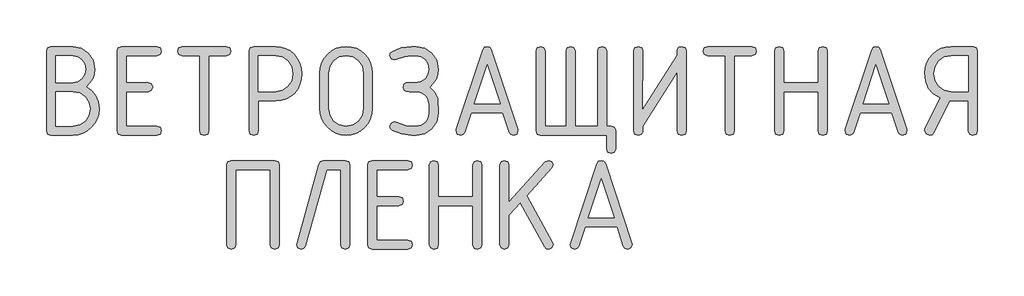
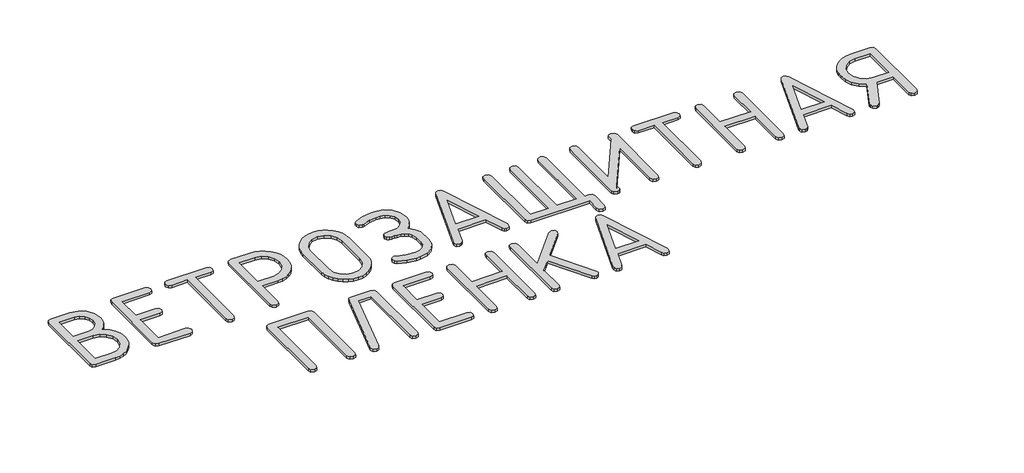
# One storey, part 7 of 42: 1 proxy.
"""IFC4 building model written with IfcOpenShell, lengths in millimetres."""

from ifc_helpers import new_model, si_unit, origin, origin_with_axes, place, context, project, spatial, polyline, outline, extrude, element, save

model = new_model("IFC4")

# Units and contexts
model_context = context("Model", 3, world=origin())
ifc_project = project(units=[si_unit("LENGTHUNIT", "METRE", prefix="MILLI")], contexts=[model_context])

# Site, building, storey
site = spatial("IfcSite", under=ifc_project)
building = spatial("IfcBuilding", under=site)
storey = spatial("IfcBuildingStorey", under=building, Name="Этаж 01", Elevation=0.0)

# Proxy
placement = place(None, origin())
element("IfcBuildingElementProxy", 1, Name="300 мм GOST Common", ObjectType="300 мм GOST Common", at=placement, inside=storey, context=model_context, shape_type="SweptSolid", body=[
    extrude(outline(polyline([(-22437.6353653, -44301.2508725), (-22418.3223114, -44315.6108267), (-22404.5272729, -44333.1887825), (-22396.2502498, -44353.98474), (-22393.4912421, -44377.9986992), (-22395.1456379, -44395.9625125), (-22400.1088255, -44412.5695196), (-22408.3808047, -44427.8197203), (-22419.9615756, -44441.7131146), (-22433.8827113, -44453.2762319), (-22449.1757851, -44461.5356014), (-22465.8407968, -44466.4912231), (-22483.8777466, -44468.143097), (-22559.172933, -44468.143097), (-22570.4914216, -44464.3299163), (-22574.2642512, -44452.8903743), (-22574.2642512, -44178.6641758), (-22570.5115972, -44167.2246338), (-22559.2536352, -44163.4114531), (-22484.1198533, -44163.4114531), (-22454.9560827, -44169.0202585), (-22430.7353241, -44185.8466748), (-22414.4233846, -44210.8240169), (-22408.9860714, -44240.8855999), (-22410.7766523, -44258.5795651), (-22416.1483949, -44274.5384324), (-22425.1012992, -44288.7622015), (-22437.6353653, -44301.2508725)]), holes=[polyline([(-22543.2745925, -44194.4011118), (-22543.2745925, -44287.3700879), (-22484.2812578, -44287.3700879), (-22467.2429982, -44283.9705062), (-22452.9284391, -44273.7717611), (-22443.2139074, -44258.7510574), (-22439.9757301, -44240.8855999), (-22443.2139074, -44223.0201423), (-22452.9284391, -44207.9994386), (-22467.2429982, -44197.8006935), (-22484.2812578, -44194.4011118), (-22543.2745925, -44194.4011118)]), polyline([(-22543.2745925, -44318.3597466), (-22543.2745925, -44437.1534383), (-22483.8777466, -44437.1534383), (-22460.8675215, -44432.8459564), (-22441.7108282, -44419.9235109), (-22428.7883827, -44400.7668175), (-22424.4809008, -44377.7565924), (-22428.7883827, -44354.7463674), (-22441.7108282, -44335.589674), (-22460.8675215, -44322.6672285), (-22483.8777466, -44318.3597466), (-22543.2745925, -44318.3597466)])]), origin_with_axes(), (0.0, 0.0, 1.0), 10.0),
    extrude(outline(polyline([(-22331.5119247, -44452.8903743), (-22331.5119247, -44178.6641758), (-22327.6382174, -44167.2246338), (-22316.0170953, -44163.4114531), (-22194.4795276, -44163.4114531), (-22183.1005123, -44167.2851604), (-22179.3075072, -44178.9062825), (-22183.1005123, -44190.5274045), (-22194.4795276, -44194.4011118), (-22300.522266, -44194.4011118), (-22300.522266, -44287.3700879), (-22224.7428662, -44287.3700879), (-22213.4243776, -44291.2437952), (-22209.651548, -44302.8649173), (-22213.4243776, -44314.4860393), (-22224.7428662, -44318.3597466), (-22300.522266, -44318.3597466), (-22300.522266, -44437.1534383), (-22194.4795276, -44437.1534383), (-22183.1005123, -44441.0271456), (-22179.3075072, -44452.6482676), (-22183.1005123, -44464.2693896), (-22194.4795276, -44468.143097), (-22316.0170953, -44468.143097), (-22327.6382174, -44464.3299163), (-22331.5119247, -44452.8903743)])), origin_with_axes(), (0.0, 0.0, 1.0), 10.0),
    extrude(outline(polyline([(-22123.2194531, -44178.9062825), (-22119.426448, -44167.2851604), (-22108.0474327, -44163.4114531), (-21955.8430152, -44163.4114531), (-21944.5245266, -44167.2851604), (-21940.751697, -44178.9062825), (-21944.5245266, -44190.5274045), (-21955.8430152, -44194.4011118), (-22016.4503946, -44194.4011118), (-22016.4503946, -44452.9710766), (-22020.3241019, -44464.3500919), (-22031.9452239, -44468.143097), (-22043.566346, -44464.3500919), (-22047.4400533, -44452.9710766), (-22047.4400533, -44194.4011118), (-22108.0474327, -44194.4011118), (-22119.426448, -44190.5274045), (-22123.2194531, -44178.9062825)])), origin_with_axes(), (0.0, 0.0, 1.0), 10.0),
    extrude(outline(polyline([(-21861.9056123, -44163.4114531), (-21786.6104259, -44163.4114531), (-21768.4751203, -44165.1062001), (-21751.7571476, -44170.190441), (-21736.4565081, -44178.6641758), (-21722.5732015, -44190.5274045), (-21711.0453914, -44204.8117003), (-21702.8112414, -44220.5486363), (-21697.8707514, -44237.7382126), (-21696.2239214, -44256.3804292), (-21697.7850052, -44276.0717748), (-21702.4682569, -44293.8262668), (-21710.2736763, -44309.6439051), (-21721.2012635, -44323.5246897), (-21734.6255761, -44334.8230028), (-21749.9211718, -44342.8932264), (-21767.0880506, -44347.7353606), (-21786.1262125, -44349.3494053), (-21846.0072717, -44349.3494053), (-21846.0072717, -44453.2938855), (-21849.8809791, -44464.4307941), (-21861.5021011, -44468.143097), (-21873.1232231, -44464.3299163), (-21876.9969304, -44452.8903743), (-21876.9969304, -44178.6641758), (-21873.2241009, -44167.2246338), (-21861.9056123, -44163.4114531)]), holes=[polyline([(-21846.0072717, -44194.4011118), (-21846.0072717, -44318.3597466), (-21786.6104259, -44318.3597466), (-21763.6002008, -44313.8706847), (-21744.4435075, -44300.4034991), (-21731.5210619, -44280.4196078), (-21727.2135801, -44256.3804292), (-21731.5210619, -44232.3412506), (-21744.4435075, -44212.3573594), (-21763.6002008, -44198.8901737), (-21786.6104259, -44194.4011118), (-21846.0072717, -44194.4011118)])]), origin_with_axes(), (0.0, 0.0, 1.0), 10.0),
    extrude(outline(polyline([(-21453.4715949, -44376.7074634), (-21455.1259907, -44394.9411249), (-21460.0891783, -44411.7927606), (-21468.3611575, -44427.2623705), (-21479.9419284, -44441.3499546), (-21493.8630641, -44453.0719544), (-21509.1561379, -44461.4448114), (-21525.8211496, -44466.4685256), (-21543.8580994, -44468.143097), (-21561.8950492, -44466.4685256), (-21578.560061, -44461.4448114), (-21593.8531348, -44453.0719544), (-21607.7742705, -44441.3499546), (-21619.3550414, -44427.2623705), (-21627.6270206, -44411.7927606), (-21632.5902081, -44394.9411249), (-21634.244604, -44376.7074634), (-21634.244604, -44254.8470867), (-21632.5902081, -44236.6134252), (-21627.6270206, -44219.7617895), (-21619.3550414, -44204.2921796), (-21607.7742705, -44190.2045955), (-21593.8531348, -44178.4825957), (-21578.560061, -44170.1097387), (-21561.8950492, -44165.0860245), (-21543.8580994, -44163.4114531), (-21525.7227938, -44165.0784587), (-21509.0048212, -44170.0794754), (-21493.7041816, -44178.4145032), (-21479.820875, -44190.0835422), (-21468.293065, -44204.1332971), (-21460.0589149, -44219.6104728), (-21455.1184249, -44236.5150694), (-21453.4715949, -44254.8470867), (-21453.4715949, -44376.7074634)]), holes=[polyline([(-21484.4612536, -44376.4653567), (-21484.4612536, -44255.0891934), (-21488.7687354, -44231.5644916), (-21501.691181, -44211.9941993), (-21520.8478743, -44198.7993837), (-21543.8580994, -44194.4011118), (-21566.8683245, -44198.7993837), (-21586.0250178, -44211.9941993), (-21598.9474634, -44231.5644916), (-21603.2549453, -44255.0891934), (-21603.2549453, -44376.4653567), (-21598.9474634, -44399.9900585), (-21586.0250178, -44419.5603508), (-21566.8683245, -44432.7551664), (-21543.8580994, -44437.1534383), (-21520.8478743, -44432.7551664), (-21501.691181, -44419.5603508), (-21488.7687354, -44399.9900585), (-21484.4612536, -44376.4653567)])]), origin_with_axes(), (0.0, 0.0, 1.0), 10.0),
    extrude(outline(polyline([(-21317.8111358, -44194.4011118), (-21344.4226982, -44197.7300791), (-21371.4781229, -44207.7169808), (-21378.4185152, -44209.5731322), (-21388.9905082, -44204.9731048), (-21393.5905356, -44194.4011118), (-21391.3913997, -44186.5729949), (-21384.7939919, -44180.5203272), (-21353.3604709, -44167.6886716), (-21317.8111358, -44163.4114531), (-21302.6391154, -44163.4114531), (-21273.4148182, -44169.0606096), (-21248.6896705, -44186.0080792), (-21231.832991, -44210.9854213), (-21226.2140978, -44240.7241954), (-21228.1106003, -44259.0284713), (-21233.800108, -44275.4463325), (-21243.2826207, -44289.9777789), (-21256.5581386, -44302.6228105), (-21238.7834711, -44320.901867), (-21229.038676, -44342.9739286), (-21226.2140978, -44392.9286128), (-21231.832991, -44421.8502767), (-21248.6896705, -44446.1517376), (-21273.4148182, -44462.6452571), (-21302.6391154, -44468.143097), (-21317.8111358, -44468.143097), (-21352.9166086, -44463.8658785), (-21384.7939919, -44451.0342229), (-21391.3913997, -44445.1026086), (-21393.5905356, -44437.1534383), (-21389.1115615, -44426.460392), (-21378.4185152, -44421.9814179), (-21371.4781229, -44423.8375693), (-21337.9866949, -44435.2972869), (-21302.6391154, -44437.1534383), (-21285.0561157, -44433.9253488), (-21270.3985721, -44424.2410805), (-21260.5024604, -44409.896258), (-21257.2037565, -44392.6865061), (-21257.2037565, -44363.0687855), (-21263.1757219, -44340.7949683), (-21270.9937511, -44330.9795588), (-21281.1319695, -44323.968552), (-21293.5903772, -44319.761948), (-21308.3689742, -44318.3597466), (-21317.5690291, -44318.3597466), (-21326.2848706, -44318.3597466), (-21337.0283558, -44317.2400031), (-21343.5955003, -44313.8807725), (-21348.0744744, -44302.9456195), (-21343.5147981, -44291.9701154), (-21337.1090581, -44288.5200948), (-21327.0111908, -44287.3700879), (-21318.0128914, -44287.3700879), (-21307.965463, -44287.3700879), (-21286.690336, -44283.9402429), (-21270.6406788, -44273.6507078), (-21260.562987, -44258.5795651), (-21257.2037565, -44240.8048976), (-21260.5327237, -44222.9999668), (-21270.5196254, -44207.9994386), (-21285.2074324, -44197.8006935), (-21302.6391154, -44194.4011118), (-21317.8111358, -44194.4011118)])), origin_with_axes(), (0.0, 0.0, 1.0), 10.0),
    extrude(outline(polyline([(-20952.7949215, -44452.8903743), (-20956.5879266, -44464.3299163), (-20967.9669419, -44468.143097), (-20977.1064702, -44465.5000987), (-20982.4126422, -44457.571104), (-21004.202246, -44390.6689502), (-21113.4730738, -44390.6689502), (-21135.3433798, -44457.571104), (-21140.6495518, -44465.5000987), (-21149.7890801, -44468.143097), (-21161.1680954, -44464.3299163), (-21164.9611005, -44452.8903743), (-21164.2347804, -44448.0482402), (-21074.0096803, -44175.678193), (-21068.1587682, -44166.4781381), (-21058.8376599, -44163.4114531), (-21049.637605, -44166.3570847), (-21043.9884484, -44175.1939796), (-20953.5212417, -44448.0482402), (-20952.7949215, -44452.8903743)]), holes=[polyline([(-21058.8376599, -44226.0363884), (-21103.3852943, -44359.6792915), (-21014.3707278, -44359.6792915), (-21058.8376599, -44226.0363884)])]), origin_with_axes(), (0.0, 0.0, 1.0), 10.0),
    extrude(outline(polyline([(-20756.2042742, -44437.1534383), (-20678.7301274, -44437.1534383), (-20678.7301274, -44178.5834735), (-20674.8564201, -44167.2044582), (-20663.2352981, -44163.4114531), (-20651.6141761, -44167.2044582), (-20647.7404687, -44178.5834735), (-20647.7404687, -44437.1534383), (-20632.2456394, -44437.1534383), (-20620.6245174, -44441.0271456), (-20616.75081, -44452.6482676), (-20616.75081, -44514.627585), (-20620.6245174, -44526.248707), (-20632.2456394, -44530.1224144), (-20643.8667614, -44526.248707), (-20647.7404687, -44514.627585), (-20647.7404687, -44468.143097), (-20875.3207748, -44468.143097), (-20886.6997901, -44464.3299163), (-20890.4927952, -44452.8903743), (-20890.4927952, -44178.6641758), (-20886.6190879, -44167.2246338), (-20874.9979658, -44163.4114531), (-20863.3768438, -44167.2044582), (-20859.5031365, -44178.5834735), (-20859.5031365, -44437.1534383), (-20787.1939329, -44437.1534383), (-20787.1939329, -44178.5834735), (-20783.3202255, -44167.2044582), (-20771.6991035, -44163.4114531), (-20760.0779815, -44167.2044582), (-20756.2042742, -44178.5834735), (-20756.2042742, -44437.1534383)])), origin_with_axes(), (0.0, 0.0, 1.0), 10.0),
    extrude(outline(polyline([(-20389.9775263, -44163.4114531), (-20377.9932442, -44167.2246338), (-20373.9984835, -44178.6641758), (-20373.9984835, -44452.8903743), (-20377.8721909, -44464.3299163), (-20389.4933129, -44468.143097), (-20401.1144349, -44464.3299163), (-20404.9881422, -44452.8903743), (-20404.9881422, -44249.7628458), (-20523.7818339, -44437.6376517), (-20523.7818339, -44457.4904018), (-20528.9871282, -44465.4799232), (-20538.7924499, -44468.143097), (-20550.7767319, -44464.3299163), (-20554.7714926, -44452.8903743), (-20554.7714926, -44178.6641758), (-20550.8977853, -44167.2246338), (-20539.2766633, -44163.4114531), (-20527.6555413, -44167.2246338), (-20523.7818339, -44178.6641758), (-20524.6695585, -44381.7917043), (-20404.9881422, -44193.9168984), (-20404.9881422, -44174.0641483), (-20399.782848, -44166.0746269), (-20389.9775263, -44163.4114531)])), origin_with_axes(), (0.0, 0.0, 1.0), 10.0),
    extrude(outline(polyline([(-20315.4893623, -44178.9062825), (-20311.6963572, -44167.2851604), (-20300.3173419, -44163.4114531), (-20148.1129244, -44163.4114531), (-20136.7944358, -44167.2851604), (-20133.0216063, -44178.9062825), (-20136.7944358, -44190.5274045), (-20148.1129244, -44194.4011118), (-20208.7203038, -44194.4011118), (-20208.7203038, -44452.9710766), (-20212.5940112, -44464.3500919), (-20224.2151332, -44468.143097), (-20235.8362552, -44464.3500919), (-20239.7099625, -44452.9710766), (-20239.7099625, -44194.4011118), (-20300.3173419, -44194.4011118), (-20311.6963572, -44190.5274045), (-20315.4893623, -44178.9062825)])), origin_with_axes(), (0.0, 0.0, 1.0), 10.0),
    extrude(outline(polyline([(-20069.2668397, -44452.8903743), (-20069.2668397, -44178.6641758), (-20065.3931323, -44167.2246338), (-20053.7720103, -44163.4114531), (-20042.1508883, -44167.2851604), (-20038.277181, -44178.9062825), (-20038.277181, -44287.3700879), (-19919.4834893, -44287.3700879), (-19919.4834893, -44178.9062825), (-19915.609782, -44167.2851604), (-19903.9886599, -44163.4114531), (-19892.3675379, -44167.2246338), (-19888.4938306, -44178.6641758), (-19888.4938306, -44452.8903743), (-19892.3675379, -44464.3299163), (-19903.9886599, -44468.143097), (-19915.609782, -44464.390443), (-19919.4834893, -44453.1324811), (-19919.4834893, -44318.3597466), (-20038.277181, -44318.3597466), (-20038.277181, -44453.1324811), (-20042.1508883, -44464.390443), (-20053.7720103, -44468.143097), (-20065.3931323, -44464.3299163), (-20069.2668397, -44452.8903743)])), origin_with_axes(), (0.0, 0.0, 1.0), 10.0),
    extrude(outline(polyline([(-19615.0746544, -44452.8903743), (-19618.8676595, -44464.3299163), (-19630.2466748, -44468.143097), (-19639.386203, -44465.5000987), (-19644.692375, -44457.571104), (-19666.4819788, -44390.6689502), (-19775.7528066, -44390.6689502), (-19797.6231126, -44457.571104), (-19802.9292847, -44465.5000987), (-19812.0688129, -44468.143097), (-19823.4478282, -44464.3299163), (-19827.2408333, -44452.8903743), (-19826.5145132, -44448.0482402), (-19736.2894131, -44175.678193), (-19730.438501, -44166.4781381), (-19721.1173927, -44163.4114531), (-19711.9173378, -44166.3570847), (-19706.2681813, -44175.1939796), (-19615.8009745, -44448.0482402), (-19615.0746544, -44452.8903743)]), holes=[polyline([(-19721.1173927, -44226.0363884), (-19765.6650271, -44359.6792915), (-19676.6504606, -44359.6792915), (-19721.1173927, -44226.0363884)])]), origin_with_axes(), (0.0, 0.0, 1.0), 10.0),
    extrude(outline(polyline([(-19499.9932655, -44339.8265414), (-19523.215334, -44326.1878635), (-19540.5864904, -44306.0930067), (-19549.7260186, -44282.0639159), (-19552.772528, -44254.8470867), (-19551.1181322, -44236.6134252), (-19546.1549447, -44219.7617895), (-19537.8829654, -44204.2921796), (-19526.3021945, -44190.2045955), (-19512.3810588, -44178.4825957), (-19497.087985, -44170.1097387), (-19480.4229733, -44165.0860245), (-19462.3860235, -44163.4114531), (-19387.0908371, -44163.4114531), (-19375.7723485, -44167.2246338), (-19371.9995189, -44178.6641758), (-19371.9995189, -44452.8903743), (-19375.8732263, -44464.3299163), (-19387.4943483, -44468.143097), (-19399.1154703, -44464.4307941), (-19402.9891776, -44453.2938855), (-19402.9891776, -44349.3494053), (-19467.3088599, -44349.3494053), (-19521.7828693, -44459.8307667), (-19527.8153615, -44466.0650144), (-19536.5513785, -44468.143097), (-19547.8496916, -44463.5430695), (-19552.772528, -44452.8903743), (-19552.772528, -44445.949982), (-19499.9932655, -44339.8265414)]), holes=[polyline([(-19402.9891776, -44194.4011118), (-19462.3860235, -44194.4011118), (-19485.3962486, -44198.8901737), (-19504.5529419, -44212.3573594), (-19517.4753875, -44232.3412506), (-19521.7828693, -44256.3804292), (-19517.4753875, -44280.4196078), (-19504.5529419, -44300.4034991), (-19485.3962486, -44313.8706847), (-19462.3860235, -44318.3597466), (-19402.9891776, -44318.3597466), (-19402.9891776, -44194.4011118)])]), origin_with_axes(), (0.0, 0.0, 1.0), 10.0),
    extrude(outline(polyline([(-21939.379759, -44555.4599443), (-21788.7893863, -44555.4599443), (-21777.4708977, -44559.273125), (-21773.6980681, -44570.7126669), (-21773.6980681, -44844.9388655), (-21777.5717755, -44856.3784075), (-21789.1928975, -44860.1915882), (-21800.8140195, -44856.3985831), (-21804.6877268, -44845.0195678), (-21804.6877268, -44586.449603), (-21923.4814185, -44586.449603), (-21923.4814185, -44845.0195678), (-21927.3551258, -44856.3985831), (-21938.9762478, -44860.1915882), (-21950.5973699, -44856.3784075), (-21954.4710772, -44844.9388655), (-21954.4710772, -44570.7126669), (-21950.6982477, -44559.273125), (-21939.379759, -44555.4599443)])), origin_with_axes(), (0.0, 0.0, 1.0), 10.0),
    extrude(outline(polyline([(-21623.0269931, -44555.4599443), (-21546.440571, -44555.4599443), (-21534.819449, -44559.273125), (-21530.9457416, -44570.7126669), (-21530.9457416, -44844.9388655), (-21534.819449, -44856.3784075), (-21546.440571, -44860.1915882), (-21558.061693, -44856.3985831), (-21561.9354003, -44845.0195678), (-21561.9354003, -44586.449603), (-21611.0830622, -44586.449603), (-21683.8764792, -44849.6195952), (-21688.9808957, -44857.5485899), (-21698.3221795, -44860.1915882), (-21709.7011948, -44856.3784075), (-21713.4941999, -44844.9388655), (-21712.2836664, -44839.4511135), (-21638.1990135, -44570.7126669), (-21632.3077503, -44559.273125), (-21623.0269931, -44555.4599443)])), origin_with_axes(), (0.0, 0.0, 1.0), 10.0),
    extrude(outline(polyline([(-21468.9664242, -44844.9388655), (-21468.9664242, -44570.7126669), (-21465.0927169, -44559.273125), (-21453.4715949, -44555.4599443), (-21331.9340272, -44555.4599443), (-21320.5550119, -44559.3336516), (-21316.7620068, -44570.9547736), (-21320.5550119, -44582.5758957), (-21331.9340272, -44586.449603), (-21437.9767655, -44586.449603), (-21437.9767655, -44679.4185791), (-21362.1973658, -44679.4185791), (-21350.8788771, -44683.2922864), (-21347.1060476, -44694.9134084), (-21350.8788771, -44706.5345305), (-21362.1973658, -44710.4082378), (-21437.9767655, -44710.4082378), (-21437.9767655, -44829.2019295), (-21331.9340272, -44829.2019295), (-21320.5550119, -44833.0756368), (-21316.7620068, -44844.6967588), (-21320.5550119, -44856.3178808), (-21331.9340272, -44860.1915882), (-21453.4715949, -44860.1915882), (-21465.0927169, -44856.3784075), (-21468.9664242, -44844.9388655)])), origin_with_axes(), (0.0, 0.0, 1.0), 10.0),
    extrude(outline(polyline([(-21257.2037565, -44844.9388655), (-21257.2037565, -44570.7126669), (-21253.3300491, -44559.273125), (-21241.7089271, -44555.4599443), (-21230.0878051, -44559.3336516), (-21226.2140978, -44570.9547736), (-21226.2140978, -44679.4185791), (-21107.4204061, -44679.4185791), (-21107.4204061, -44570.9547736), (-21103.5466987, -44559.3336516), (-21091.9255767, -44555.4599443), (-21080.3044547, -44559.273125), (-21076.4307474, -44570.7126669), (-21076.4307474, -44844.9388655), (-21080.3044547, -44856.3784075), (-21091.9255767, -44860.1915882), (-21103.5466987, -44856.4389342), (-21107.4204061, -44845.1809722), (-21107.4204061, -44710.4082378), (-21226.2140978, -44710.4082378), (-21226.2140978, -44845.1809722), (-21230.0878051, -44856.4389342), (-21241.7089271, -44860.1915882), (-21253.3300491, -44856.3784075), (-21257.2037565, -44844.9388655)])), origin_with_axes(), (0.0, 0.0, 1.0), 10.0),
    extrude(outline(polyline([(-20944.2404845, -44700.8853739), (-20983.4617713, -44744.303177), (-20983.4617713, -44844.9388655), (-20987.3354786, -44856.3784075), (-20998.9566006, -44860.1915882), (-21010.5777227, -44856.3784075), (-21014.45143, -44844.9388655), (-21014.45143, -44570.7126669), (-21010.5777227, -44559.273125), (-20998.9566006, -44555.4599443), (-20987.3354786, -44559.273125), (-20983.4617713, -44570.7126669), (-20983.4617713, -44698.7871158), (-20858.6154119, -44560.5441852), (-20847.0749921, -44555.4599443), (-20835.7565035, -44559.273125), (-20831.983674, -44570.7126669), (-20836.099488, -44581.1232554), (-20922.6122852, -44676.9168098), (-20834.0012299, -44837.3528553), (-20831.983674, -44844.9388655), (-20836.6644037, -44855.4705074), (-20847.0749921, -44860.1915882), (-20855.0645135, -44858.1740323), (-20860.6329678, -44852.1213645), (-20944.2404845, -44700.8853739)])), origin_with_axes(), (0.0, 0.0, 1.0), 10.0),
    extrude(outline(polyline([(-20560.2592447, -44844.9388655), (-20564.0522498, -44856.3784075), (-20575.4312651, -44860.1915882), (-20584.5707933, -44857.5485899), (-20589.8769654, -44849.6195952), (-20611.6665691, -44782.7174414), (-20720.9373969, -44782.7174414), (-20742.807703, -44849.6195952), (-20748.113875, -44857.5485899), (-20757.2534032, -44860.1915882), (-20768.6324185, -44856.3784075), (-20772.4254236, -44844.9388655), (-20771.6991035, -44840.0967314), (-20681.4740034, -44567.7266842), (-20675.6230913, -44558.5266293), (-20666.301983, -44555.4599443), (-20657.1019281, -44558.4055759), (-20651.4527716, -44567.2424708), (-20560.9855648, -44840.0967314), (-20560.2592447, -44844.9388655)]), holes=[polyline([(-20666.301983, -44618.0848796), (-20710.8496174, -44751.7277827), (-20621.8350509, -44751.7277827), (-20666.301983, -44618.0848796)])]), origin_with_axes(), (0.0, 0.0, 1.0), 10.0),
])

save(model, "model.ifc")
